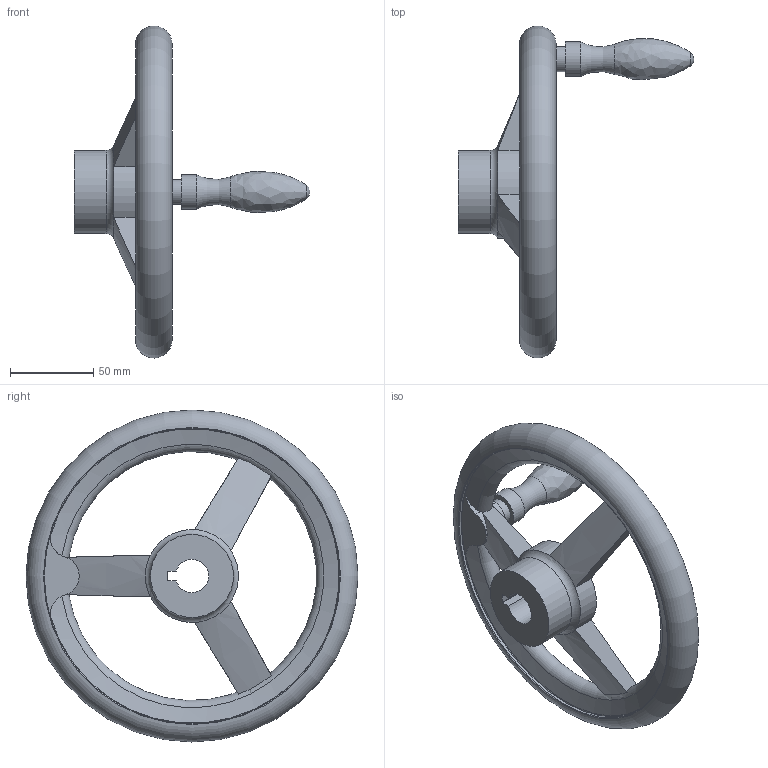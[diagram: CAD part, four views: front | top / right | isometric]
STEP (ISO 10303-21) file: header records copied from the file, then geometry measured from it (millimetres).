
FILE_DESCRIPTION( ( 'STEP AP203' ), '1' );
FILE_NAME( 'C:/Temp/Ganter_Step_05_03_2020/data/1_3/gn_950_1/gn_950_1_k/gn_950_1_k_d/Handwheel GN 950.1-GG-200-K20-D.stp', '2020-03-05T10:32:38', ( 'License CC BY-ND 4.0' ), ( 'CADENAS' ), ' ', 'PARTsolutions', ' ' );
FILE_SCHEMA( ( 'CONFIG_CONTROL_DESIGN' ) );
Length unit declared in the file: millimetre
Products named in the file (1): _Handwheel GN 950.1-GG-200-K20-D
Bounding box: 142 x 199.98 x 199.98 mm (x, y, z)
Volume: 339456.7 mm3; surface area: 69164.9 mm2
Topology: 1 solids, 1 shells, 53 faces, 151 edges, 97 vertices
Faces by surface type: cylinder 18, plane 14, torus 13, cone 6, bspline 1, sphere 1
Full cylindrical faces by diameter (mm): 15 x1, 21 x1, 50 x2, 178 x2
Entity records: 2048 total; most frequent: CARTESIAN_POINT 765, ORIENTED_EDGE 256, DIRECTION 240, EDGE_CURVE 128, AXIS2_PLACEMENT_3D 109, VERTEX_POINT 93, EDGE_LOOP 75, FACE_OUTER_BOUND 68
